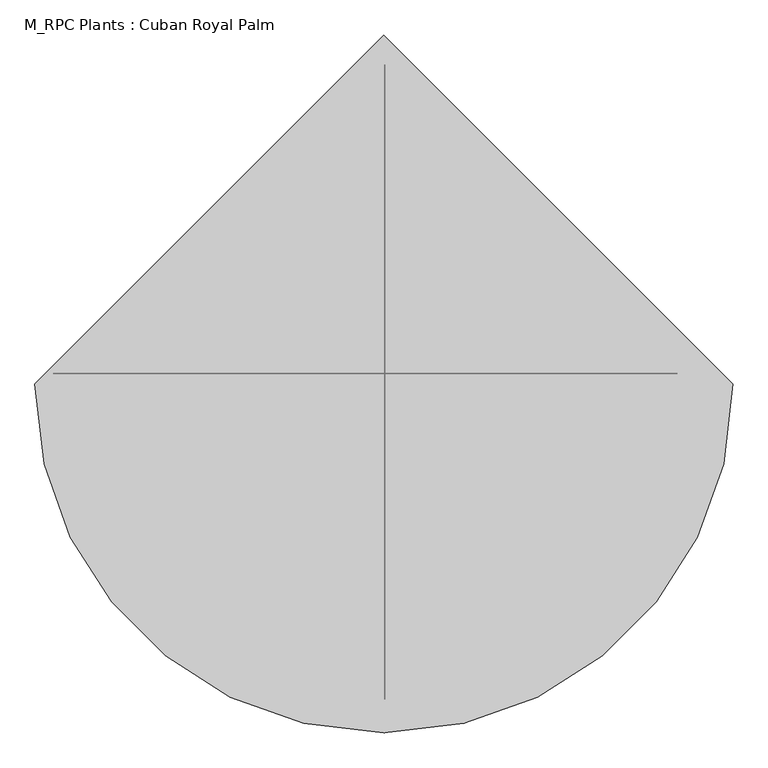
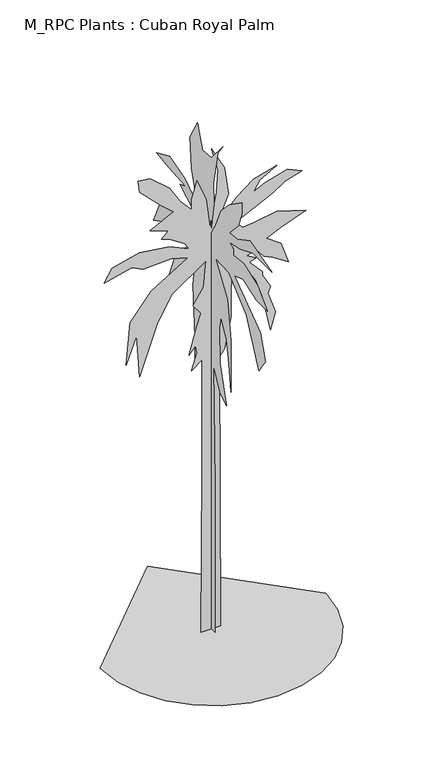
"""IFC4 building model written with IfcOpenShell, lengths in millimetres: proxy geometry, M_RPC Plants : Cuban Royal Palm."""

import ifcopenshell
import ifcopenshell.guid

model = None  # the IFC model being written
_history = None  # IfcOwnerHistory: only IFC2X3 demands one
_inside = {}  # id of a spatial element -> (the spatial element, [elements in it])
_under = {}  # id of a project, library or spatial element -> (it, [spatial elements below it])
_declared = {}  # id of a project -> (the project, [libraries it declares])
_typed = {}  # id of a type object -> (the type object, [elements of that type])
_made_of = {}  # id of a material, layer set ... -> (it, [elements and type objects made of it])


def new_model(schema):
    """Start an empty IFC model of exactly this schema.

    Asked for "IFC4X3", IfcOpenShell would pick the latest addendum, in which some entities
    have other attributes; the version numbers below select the first issue.
    IFC2X3 requires an IfcOwnerHistory on every rooted entity: one is made here for all.
    """
    global model, _history
    if schema == "IFC4X3":
        model = ifcopenshell.file(schema_version=(4, 3, 0, 0))
    else:
        model = ifcopenshell.file(schema=schema)
    _inside.clear()
    _under.clear()
    _declared.clear()
    _typed.clear()
    _made_of.clear()
    _history = None
    if model.schema == "IFC2X3":
        org = make("IfcOrganization", Name="unknown")
        user = make(
            "IfcPersonAndOrganization",
            ThePerson=make("IfcPerson", FamilyName="unknown"),
            TheOrganization=org,
        )
        app = make(
            "IfcApplication",
            ApplicationDeveloper=org,
            Version="unknown",
            ApplicationFullName="unknown",
            ApplicationIdentifier="unknown",
        )
        _history = make(
            "IfcOwnerHistory",
            OwningUser=user,
            OwningApplication=app,
            ChangeAction="ADDED",
            CreationDate=0,
        )
    return model


def make(cls, **values):
    """One entity of the class cls with the attributes given. An attribute that is None is left unset."""
    return model.create_entity(
        cls, **{name: value for name, value in values.items() if value is not None}
    )


def rooted(cls, **values):
    """An entity with a GlobalId (a new one), such as an element, a storey or a relation."""
    return make(cls, GlobalId=ifcopenshell.guid.new(), OwnerHistory=_history, **values)


def si_unit(unit_type, name, prefix=None):
    """IfcSIUnit, for example si_unit("LENGTHUNIT", "METRE", prefix="MILLI")."""
    return make("IfcSIUnit", UnitType=unit_type, Prefix=prefix, Name=name)


def assignment(units):
    """IfcUnitAssignment: the units of a project."""
    return None if units is None else make("IfcUnitAssignment", Units=units)


def point(xyz):
    """IfcCartesianPoint."""
    return None if xyz is None else make("IfcCartesianPoint", Coordinates=xyz)


def direction(xyz):
    """IfcDirection."""
    return None if xyz is None else make("IfcDirection", DirectionRatios=xyz)


def frame(location, z_axis=None, x_axis=None):
    """IfcAxis2Placement3D, a coordinate frame: its origin and axes. An axis left out is left unset."""
    return make(
        "IfcAxis2Placement3D",
        Location=point(location),
        Axis=direction(z_axis),
        RefDirection=direction(x_axis),
    )


def origin():
    """The frame at (0, 0, 0) with its axes left unset."""
    return frame((0.0, 0.0, 0.0))


def place(relative_to, where):
    """IfcLocalPlacement: puts the frame where relative to a parent placement (None: the world)."""
    return make(
        "IfcLocalPlacement", PlacementRelTo=relative_to, RelativePlacement=where
    )


def context(
    kind, dimensions, precision=None, world=None, true_north=None, identifier=None
):
    """IfcGeometricRepresentationContext, for example the 3D "Model" context."""
    return make(
        "IfcGeometricRepresentationContext",
        ContextIdentifier=identifier,
        ContextType=kind,
        CoordinateSpaceDimension=dimensions,
        Precision=precision,
        WorldCoordinateSystem=world,
        TrueNorth=true_north,
    )


def project(units=None, contexts=None):
    """IfcProject with its units and contexts."""
    return rooted(
        "IfcProject",
        Name="project",
        RepresentationContexts=contexts,
        UnitsInContext=assignment(units),
    )


def spatial(cls, under=None, at=None, **own):
    """A site, building, storey or space (cls), placed at a placement, below another one or the project."""
    s = rooted(cls, ObjectPlacement=at, **own)
    if under is not None:
        _under.setdefault(under.id(), (under, []))[1].append(s)
    return s


def point_list(points):
    """IfcCartesianPointList2D or 3D."""
    cls = (
        "IfcCartesianPointList2D" if len(points[0]) == 2 else "IfcCartesianPointList3D"
    )
    return make(cls, CoordList=points)


def triangles(points, corners, closed=None, point_numbers=None):
    """IfcTriangulatedFaceSet: each triangle names its three corners, points numbered from 1."""
    return make(
        "IfcTriangulatedFaceSet",
        Coordinates=point_list(points),
        Closed=closed,
        CoordIndex=corners,
        PnIndex=point_numbers,
    )


def shape(context_of_items, identifier, shape_type, items):
    """IfcShapeRepresentation: the items that make up one representation, for example the "Body"."""
    return make(
        "IfcShapeRepresentation",
        ContextOfItems=context_of_items,
        RepresentationIdentifier=identifier,
        RepresentationType=shape_type,
        Items=items,
    )


def source(mapping_origin, context_of_items, identifier, shape_type, items):
    """IfcRepresentationMap: a shape defined once, which mapped items show again and again."""
    return make(
        "IfcRepresentationMap",
        MappingOrigin=mapping_origin,
        MappedRepresentation=shape(context_of_items, identifier, shape_type, items),
    )


def transform(
    local_origin,
    x_axis=None,
    y_axis=None,
    z_axis=None,
    scale=None,
    scale2=None,
    scale3=None,
    uniform=True,
):
    """IfcCartesianTransformationOperator3D, or its non-uniform kind. x_axis, y_axis, z_axis: its Axis1, 2, 3."""
    if uniform:
        return make(
            "IfcCartesianTransformationOperator3D",
            Axis1=direction(x_axis),
            Axis2=direction(y_axis),
            LocalOrigin=point(local_origin),
            Scale=scale,
            Axis3=direction(z_axis),
        )
    return make(
        "IfcCartesianTransformationOperator3DnonUniform",
        Axis1=direction(x_axis),
        Axis2=direction(y_axis),
        LocalOrigin=point(local_origin),
        Scale=scale,
        Axis3=direction(z_axis),
        Scale2=scale2,
        Scale3=scale3,
    )


def mapped(mapping_source, mapping_target):
    """IfcMappedItem: shows the shape of a source again, moved by a transform."""
    return make(
        "IfcMappedItem", MappingSource=mapping_source, MappingTarget=mapping_target
    )


def made_of(thing, what):
    """Note that an element or type object is made of a material, layer set ...; save() writes the relation."""
    if what is not None:
        _made_of.setdefault(what.id(), (what, []))[1].append(thing)
    return thing


def element(
    cls,
    number,
    at=None,
    inside=None,
    cuts=None,
    type_object=None,
    material=None,
    context=None,
    identifier="Body",
    shape_type=None,
    held_by="IfcProductDefinitionShape",
    body=None,
    shapes=None,
    **own,
):
    """One element of the class cls, such as IfcWall. Its Tag is "e" and its number.

    at: its placement. inside: the storey or other place that contains it. cuts: it is an
    opening in that element (IfcRelVoidsElement). A single representation is given by context,
    identifier, shape_type and body (its items); several are given by shapes. held_by: the class
    of the entity that holds the representations. save() writes the other relations.
    """
    e = rooted(cls, Tag="e%d" % number, ObjectPlacement=at, **own)
    if body is not None:
        shapes = [shape(context, identifier, shape_type, body)]
    if shapes is not None:
        e.Representation = make(held_by, Representations=shapes)
    if inside is not None:
        _inside.setdefault(inside.id(), (inside, []))[1].append(e)
    if cuts is not None:
        rooted(
            "IfcRelVoidsElement", RelatingBuildingElement=cuts, RelatedOpeningElement=e
        )
    if type_object is not None:
        _typed.setdefault(type_object.id(), (type_object, []))[1].append(e)
    return made_of(e, material)


def aggregate(whole, parts):
    """IfcRelAggregates: a whole, such as a stair, and the parts it consists of."""
    return rooted("IfcRelAggregates", RelatingObject=whole, RelatedObjects=parts)


def save(model, path):
    """Write the relations noted so far, then the file.

    IfcRelAggregates (storeys below a building ...), IfcRelContainedInSpatialStructure (elements
    in a storey), IfcRelDefinesByType, IfcRelAssociatesMaterial and IfcRelDeclares: one each for
    every whole, place, type object, material and project.
    """
    for whole, parts in _under.values():
        aggregate(whole, parts)
    for where, things in _inside.values():
        rooted(
            "IfcRelContainedInSpatialStructure",
            RelatedElements=things,
            RelatingStructure=where,
        )
    for kind, things in _typed.values():
        rooted("IfcRelDefinesByType", RelatedObjects=things, RelatingType=kind)
    for what, things in _made_of.values():
        rooted("IfcRelAssociatesMaterial", RelatedObjects=things, RelatingMaterial=what)
    for by, libraries in _declared.values():
        rooted("IfcRelDeclares", RelatingContext=by, RelatedDefinitions=libraries)
    model.write(path)


def m_rpc_plants_cuban_royal_palm_0febebf2(model_context):
    return source(origin(), model_context, "Body", "Tessellation", [
        triangles([(-85.641911, -0.0275448, 0.0014862), (-236.2865584, -0.0275582, 0.0014928), (-206.1574018, -0.0282491, 3928.5799713), (-206.1570022, -0.0287286, 6610.0331589), (-447.1875661, -0.0286857, 6429.2738434), (-326.6736649, -0.028761, 6820.9534241), (-356.8016587, -0.028792, 7001.7133209), (-507.4475143, -0.0287531, 6820.9534241), (-326.6732652, -0.0288795, 7483.7926163), (-236.2861588, -0.028932, 7754.9522278), (-417.0595722, -0.0289672, 7995.9921661), (-176.0286268, -0.0290424, 8357.5119598), (-115.770686, -0.0291581, 8990.2308975), (-899.1230982, -0.0290269, 8447.9116745), (-1230.5388428, -0.0289101, 7875.472197), (-1652.346381, -0.0286815, 6700.4334549), (-1712.6022961, -0.0288621, 7724.8325546), (-1953.6340954, -0.0287384, 7092.1130356), (-1863.2502228, -0.0289201, 8086.351767), (-1381.1866241, -0.0290489, 8688.9516129), (-537.5754719, -0.0291774, 9201.1505814), (-929.2510557, -0.0291819, 9321.6705505), (-1561.9584389, -0.0291488, 9291.5107635), (-1833.1181957, -0.0291585, 9412.0307327), (-2465.8256516, -0.0291039, 9261.3910904), (-2285.0536915, -0.0291657, 9562.6703751), (-1652.346381, -0.0292203, 9713.3501312), (-959.3790133, -0.0292344, 9622.9504166), (-507.4475143, -0.0292165, 9412.0307327), (-597.8354201, -0.0292394, 9562.6703751), (-959.3790133, -0.0292667, 9803.7097321), (-1140.1548975, -0.0292696, 9863.9897736), (-989.5110403, -0.0293031, 10014.6305786), (-1411.3145817, -0.0293116, 10165.2702209), (-868.9951406, -0.0293838, 10436.4292511), (-1170.282855, -0.0294191, 10707.589444), (-1652.346381, -0.0294843, 11189.6693207), (-1682.4743385, -0.0295314, 11460.8283508), (-1411.3145817, -0.0295379, 11430.6685638), (-959.3790133, -0.0294876, 11038.9889832), (-718.3472866, -0.0294281, 10647.3094025), (-447.1875661, -0.0293861, 10346.0301178), (-447.1875661, -0.0294292, 10587.0700562), (-326.6732652, -0.0295099, 11008.8687286), (-115.770686, -0.0294275, 10496.6697601), (-25.3840156, -0.0293022, 9773.5906403), (125.2606773, -0.0294488, 10556.9498016), (155.3898429, -0.0295471, 11099.2690247), (4.7451552, -0.0296429, 11671.7085022), (306.0344813, -0.0295537, 11099.2690247), (396.4216241, -0.0294391, 10436.4292511), (125.2606773, -0.0293087, 9773.5906403), (577.1954372, -0.0294201, 10285.7896088), (968.8710211, -0.0294911, 10587.0700562), (1511.1904621, -0.0295417, 10737.7096985), (1119.5148783, -0.0294869, 10526.8295471), (968.8710211, -0.0294372, 10285.7896088), (1240.0307053, -0.0294706, 10406.3101593), (1752.2222614, -0.0295199, 10556.9498016), (2083.6420029, -0.0295075, 10406.3101593), (1691.9663464, -0.0294688, 10285.7896088), (1420.8065895, -0.0294247, 10104.9901794), (547.0674434, -0.029311, 9683.1903442), (727.8392944, -0.0292866, 9502.4304474), (968.8710211, -0.0293025, 9532.5507019), (1511.1904621, -0.0293424, 9622.9504166), (2174.0297997, -0.0293337, 9412.0307327), (1601.5784042, -0.0292709, 9201.1505814), (1270.1588081, -0.0292295, 9050.510939), (1601.5784042, -0.0292009, 8809.4710007), (1782.350219, -0.0291172, 8297.2720322), (1420.8065895, -0.0291445, 8538.3113892), (1209.9028204, -0.0291515, 8628.6715714), (968.8710211, -0.0291948, 8929.9909698), (968.8710211, -0.0291786, 8839.5912552), (818.2271639, -0.0291613, 8779.3513275), (1029.1270088, -0.0291489, 8658.8313583), (878.4831516, -0.0291316, 8598.5513168), (1179.7748629, -0.0290855, 8267.1517776), (1179.7748629, -0.0290693, 8176.752063), (1360.5466049, -0.0290179, 7845.3519424), (1300.2906898, -0.0289884, 7694.7123001), (1481.0625046, -0.0289047, 7182.5127502), (1360.5466049, -0.0288294, 6790.8331696), (1179.7748629, -0.0289777, 7664.5525131), (1029.1270088, -0.0290519, 8116.5121353), (757.967252, -0.0291209, 8568.4316437), (486.8075315, -0.0291306, 8688.9516129), (456.6795376, -0.0290215, 8086.351767), (456.6795376, -0.028903, 7423.5526886), (306.0344813, -0.0287671, 6700.4334549), (185.518618, -0.0287349, 6549.7932312), (215.6473931, -0.0275672, 0.001473), (-0.0058394, 141.1002628, 0.0007795), (-0.00584, 257.690539, 0.0008003), (-0.0058394, 257.690539, 2876.8171349), (-0.0058362, 228.5433719, 6753.4331268), (-0.0058387, 345.1328579, 6578.553685), (-0.0058357, 636.6073631, 5966.4340714), (-0.005838, 636.6073631, 6695.1535446), (-0.0058375, 724.0512989, 7919.3520767), (-0.0058398, 607.4593966, 8764.6312958), (-0.0058411, 840.639168, 8502.2717285), (-0.0058374, 1248.7067745, 7656.9925095), (-0.0058368, 1715.0662445, 7074.0728577), (-0.0058401, 2064.8339939, 6520.2735214), (-0.005838, 1656.7703842, 7627.8721939), (-0.0058384, 1394.4426464, 8269.1115417), (-0.0058384, 811.4911652, 8852.0713074), (-0.0058409, 1073.818903, 8793.75103), (-0.0058383, 1423.5905766, 8764.6312958), (-0.0058388, 1744.21432, 8822.9114594), (-0.0058387, 2298.0177258, 8531.4315765), (-0.0058405, 2006.5420578, 9172.6709244), (-0.0058374, 1685.9183144, 9172.6709244), (-0.0058379, 1569.3264484, 9668.1906784), (-0.0058388, 1015.5269669, 9551.5902374), (-0.0058407, 665.7553659, 9726.4702606), (-0.005841, 1248.7067745, 10047.1099915), (-0.005836, 1015.5269669, 10134.5500031), (-0.0058396, 1656.7703842, 10192.8301666), (-0.0058369, 2181.4258598, 10251.1498627), (-0.0058382, 1656.7703842, 10484.3100494), (-0.0058385, 1044.6749697, 10309.4300262), (-0.0058413, 549.1634637, 9959.6699799), (-0.0058378, 782.3472319, 10717.5097687), (-0.0058376, 840.639168, 11446.1885468), (-0.0058388, 549.1634637, 11970.8286163), (-0.0058376, 490.8715276, 11795.9485931), (-0.0058377, 345.1328579, 11417.0286987), (-0.0058404, -4.6371153, 11446.1885468), (-0.0058366, -470.9955242, 11999.9884644), (-0.0058391, -266.9649366, 11737.6684296), (-0.00584, -92.0795086, 10892.3886292), (-0.0058401, -121.2270754, 10396.8700378), (-0.005841, 24.5103362, 9580.7506668), (-0.0058359, -179.5226177, 9901.3502838), (-0.0058402, -383.5548223, 10396.8700378), (-0.0058402, -733.323262, 10746.6289215), (-0.0058409, -1228.8308075, 11096.4285004), (-0.005841, -1228.8308075, 10834.0689331), (-0.0058398, -1083.0949356, 10455.1897339), (-0.0058411, -733.323262, 10076.2698395), (-0.0058368, -1053.9469328, 10105.390155), (-0.0058412, -1549.4544056, 10367.7101898), (-0.0058385, -2423.8815548, 10134.5500031), (-0.0058395, -1666.0464169, 10134.5500031), (-0.0058381, -1170.5388714, 9930.5101318), (-0.0058399, -733.323262, 9843.0701202), (-0.0058387, -879.0631308, 9755.6301086), (-0.0058394, -879.0631308, 9609.9105148), (-0.0058389, -1316.2747433, 9668.1906784), (-0.0058379, -1870.078149, 9464.1508072), (-0.0058369, -2248.9938286, 9085.2309128), (-0.0058405, -1811.7821434, 9085.2309128), (-0.0058371, -1257.9787376, 9260.110936), (-0.0058396, -937.3590637, 9143.5511902), (-0.0058376, -1957.5220848, 8385.7114014), (-0.0058379, -2161.553817, 7802.7522171), (-0.0058373, -1899.2260792, 7423.8329041), (-0.005838, -1403.718679, 8473.151413), (-0.0058376, -704.1793287, 9085.2309128), (-0.0058362, -179.5226177, 9114.3907608), (-0.0058372, -645.8833231, 8385.7114014), (-0.0058376, -791.619195, 7482.1124863), (-0.0058411, -791.619195, 6228.7936386), (-0.0058377, -704.1793287, 6870.0329865), (-0.0058394, -616.735393, 7394.6724747), (-0.0058398, -383.5548223, 7802.7522171), (-0.0058386, -325.2596887, 7511.2723343), (-0.005837, -354.4072555, 6665.9931152), (-0.0058412, -616.735393, 5791.5540482), (-0.0058392, -354.4072555, 5966.4340714), (-0.0058402, -92.0795086, 6461.9538254), (-0.0058368, -150.3750509, 3605.5043427), (-0.0058407, -150.3750509, 0.0007273), (-2603.3012718, -77.3687241, 0.0008542), (-2534.665345, -672.243342, 0.0007448), (-2339.1937008, -1218.5427727, 0.0006386), (-2032.5380001, -1700.614365, 0.000539), (-1630.3503399, -2102.8018799, 0.0004495), (-1148.2788929, -2409.4575806, 0.0003736), (-601.9833864, -2604.9293701, 0.0003147), (-7.105793, -2673.5652969, 0.0002765), (587.7714269, -2604.9293701, 0.0002627), (1134.066897, -2409.4575806, 0.0002738), (1616.1384167, -2102.8018799, 0.0003076), (2018.3259315, -1700.614365, 0.0003619), (2324.9816322, -1218.5427727, 0.0004347), (2520.4534218, -672.243342, 0.0005238), (2589.0893486, -77.3687241, 0.0006272), (-7.1062727, 2518.8256142, 0.0004767)], [[54, 55, 56], [48, 49, 50], [17, 18, 19], [15, 16, 17], [7, 8, 9], [83, 84, 85], [82, 83, 85], [4, 5, 6], [70, 71, 72], [66, 67, 68], [43, 44, 45], [59, 60, 61], [24, 25, 26], [24, 26, 27], [33, 34, 35], [76, 77, 78], [58, 59, 61], [58, 61, 62], [31, 32, 33], [42, 43, 45], [42, 45, 46], [37, 38, 39], [54, 56, 57], [53, 54, 57], [23, 24, 27], [23, 27, 28], [22, 23, 28], [22, 28, 29], [21, 22, 29], [58, 62, 63], [57, 58, 63], [53, 57, 63], [52, 53, 63], [36, 37, 39], [36, 39, 40], [36, 40, 41], [35, 36, 41], [35, 41, 42], [69, 70, 72], [69, 72, 73], [69, 73, 74], [65, 66, 68], [65, 68, 69], [65, 69, 74], [64, 65, 74], [47, 48, 50], [47, 50, 51], [46, 47, 51], [46, 51, 52], [33, 35, 42], [82, 85, 86], [81, 82, 86], [80, 81, 86], [33, 42, 46], [31, 33, 46], [30, 31, 46], [29, 30, 46], [15, 17, 19], [15, 19, 20], [14, 15, 20], [14, 20, 21], [13, 14, 21], [92, 93, 1], [92, 1, 2], [92, 2, 3], [92, 3, 4], [80, 86, 87], [79, 80, 87], [78, 79, 87], [76, 78, 87], [76, 87, 88], [13, 21, 29], [13, 29, 46], [13, 46, 52], [13, 52, 63], [13, 63, 64], [13, 64, 74], [13, 74, 75], [13, 75, 76], [13, 76, 88], [12, 13, 88], [12, 88, 89], [11, 12, 89], [10, 11, 89], [10, 89, 90], [9, 10, 90], [9, 90, 91], [7, 9, 91], [6, 7, 91], [4, 6, 91], [92, 4, 91], [131, 132, 133], [165, 166, 167], [105, 106, 107], [145, 146, 147], [165, 167, 168], [98, 99, 100], [131, 133, 134], [121, 122, 123], [104, 105, 107], [112, 113, 114], [171, 172, 173], [171, 173, 174], [153, 154, 155], [127, 128, 129], [118, 119, 120], [112, 114, 115], [139, 140, 141], [139, 141, 142], [159, 160, 161], [158, 159, 161], [157, 158, 161], [157, 161, 162], [104, 107, 108], [103, 104, 108], [103, 108, 109], [102, 103, 109], [127, 129, 130], [121, 123, 124], [120, 121, 124], [120, 124, 125], [118, 120, 125], [153, 155, 156], [152, 153, 156], [151, 152, 156], [151, 156, 157], [126, 127, 130], [145, 147, 148], [144, 145, 148], [144, 148, 149], [143, 144, 149], [139, 142, 143], [138, 139, 143], [137, 138, 143], [137, 143, 149], [175, 176, 94], [175, 94, 95], [175, 95, 96], [175, 96, 97], [174, 175, 97], [111, 112, 115], [115, 116, 117], [111, 115, 117], [110, 111, 117], [109, 110, 117], [165, 168, 169], [164, 165, 169], [130, 131, 134], [126, 130, 134], [126, 134, 135], [125, 126, 135], [125, 135, 136], [118, 125, 136], [151, 157, 162], [171, 174, 97], [170, 171, 97], [109, 117, 118], [109, 118, 136], [102, 109, 136], [97, 98, 100], [97, 100, 101], [170, 97, 101], [169, 170, 101], [169, 101, 102], [164, 169, 102], [163, 164, 102], [163, 102, 136], [151, 162, 163], [151, 163, 136], [151, 136, 137], [151, 137, 149], [151, 149, 150], [191, 192, 177], [190, 191, 177], [190, 177, 178], [189, 190, 178], [189, 178, 179], [189, 179, 180], [188, 189, 180], [187, 188, 180], [187, 180, 181], [187, 181, 182], [187, 182, 183], [187, 183, 184], [187, 184, 185], [187, 185, 186]], closed=False),
    ])


if __name__ == "__main__":
    model = new_model("IFC4")
    model_context = context("Model", 3, world=origin())
    ifc_project = project(units=[si_unit("LENGTHUNIT", "METRE", prefix="MILLI")], contexts=[model_context])
    site = spatial("IfcSite", under=ifc_project)
    building = spatial("IfcBuilding", under=site)
    placement = place(None, origin())
    m_rpc_plants_cuban_royal_palm_shape = m_rpc_plants_cuban_royal_palm_0febebf2(model_context)
    element("IfcBuildingElementProxy", 1, Name="M_RPC Plants : Cuban Royal Palm", ObjectType="M_RPC Plants : Cuban Royal Palm", at=placement, inside=building, context=model_context, shape_type="MappedRepresentation", body=[
        mapped(m_rpc_plants_cuban_royal_palm_shape, transform((0.0, 0.0, 0.0), x_axis=(1.0, 0.0, 0.0), y_axis=(0.0, 1.0, 0.0), z_axis=(0.0, 0.0, 1.0))),
    ])
    save(model, "model.ifc")
